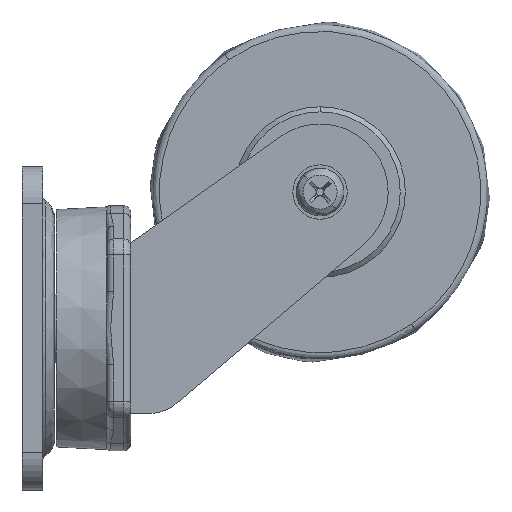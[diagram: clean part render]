
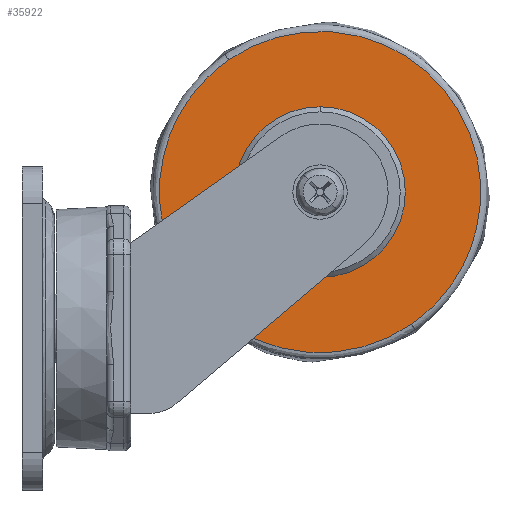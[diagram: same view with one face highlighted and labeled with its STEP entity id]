
A CAD part, left-side view. The second image highlights one B-rep face of the part: STEP entity #35922.
In plain terms, the highlighted planar face has unit normal (-1, 0, 0).
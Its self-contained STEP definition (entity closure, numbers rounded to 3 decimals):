
#1178 = CIRCLE ( 'NONE', #25655, 25.05 ) ;
#2416 = VERTEX_POINT ( 'NONE', #34981 ) ;
#2867 = EDGE_CURVE ( 'NONE', #31572, #12498, #1178, .T. ) ;
#3534 = CARTESIAN_POINT ( 'NONE',  ( -20., -55.65, 40. ) ) ;
#6559 = DIRECTION ( 'NONE',  ( -1., 0., 0. ) ) ;
#6854 = ORIENTED_EDGE ( 'NONE', *, *, #41445, .F. ) ;
#6908 = CARTESIAN_POINT ( 'NONE',  ( -20., -106.429, 132.479 ) ) ;
#7556 = ORIENTED_EDGE ( 'NONE', *, *, #41129, .F. ) ;
#9362 = DIRECTION ( 'NONE',  ( 0., 0., 1. ) ) ;
#12498 = VERTEX_POINT ( 'NONE', #32411 ) ;
#14636 = CARTESIAN_POINT ( 'NONE',  ( -20., -55.65, 14.95 ) ) ;
#16491 = DIRECTION ( 'NONE',  ( 0., 0., -1. ) ) ;
#16600 = FACE_BOUND ( 'NONE', #34526, .T. ) ;
#18168 =( BOUNDED_CURVE ( )  B_SPLINE_CURVE ( 3, ( #40989, #41524, #28788, #18507 ),
 .UNSPECIFIED., .F., .F. ) 
 B_SPLINE_CURVE_WITH_KNOTS ( ( 4, 4 ),
 ( 0., 1. ),
 .UNSPECIFIED. ) 
 CURVE ( )  GEOMETRIC_REPRESENTATION_ITEM ( )  RATIONAL_B_SPLINE_CURVE ( ( 1., 0.333, 0.333, 1. ) ) 
 REPRESENTATION_ITEM ( '' )  );
#18507 = CARTESIAN_POINT ( 'NONE',  ( -20., -28.814, 78.807 ) ) ;
#18541 = AXIS2_PLACEMENT_3D ( 'NONE', #31825, #38297, #9362 ) ;
#20077 = CARTESIAN_POINT ( 'NONE',  ( -20., -160.1, 54.864 ) ) ;
#22489 = DIRECTION ( 'NONE',  ( 0., 0., -1. ) ) ;
#24493 = CARTESIAN_POINT ( 'NONE',  ( -20., -28.814, 78.807 ) ) ;
#25655 = AXIS2_PLACEMENT_3D ( 'NONE', #29302, #6559, #16491 ) ;
#28788 = CARTESIAN_POINT ( 'NONE',  ( -20., 48.8, 25.136 ) ) ;
#29190 = FACE_OUTER_BOUND ( 'NONE', #39236, .T. ) ;
#29302 = CARTESIAN_POINT ( 'NONE',  ( -20., -55.65, 40. ) ) ;
#29543 = ORIENTED_EDGE ( 'NONE', *, *, #32332, .F. ) ;
#30805 = AXIS2_PLACEMENT_3D ( 'NONE', #3534, #35653, #22489 ) ;
#31572 = VERTEX_POINT ( 'NONE', #14636 ) ;
#31825 = CARTESIAN_POINT ( 'NONE',  ( -20., -35.046, 25.752 ) ) ;
#31957 = PLANE ( 'NONE',  #18541 ) ;
#32332 = EDGE_CURVE ( 'NONE', #12498, #31572, #39014, .T. ) ;
#32411 = CARTESIAN_POINT ( 'NONE',  ( -20., -55.65, 65.05 ) ) ;
#33004 = CARTESIAN_POINT ( 'NONE',  ( -20., -82.486, 1.193 ) ) ;
#34526 = EDGE_LOOP ( 'NONE', ( #35710, #29543 ) ) ;
#34981 = CARTESIAN_POINT ( 'NONE',  ( -20., -82.486, 1.193 ) ) ;
#35653 = DIRECTION ( 'NONE',  ( -1., 0., 0. ) ) ;
#35710 = ORIENTED_EDGE ( 'NONE', *, *, #2867, .F. ) ;
#35922 = ADVANCED_FACE ( 'NONE', ( #29190, #16600 ), #31957, .F. ) ;
#36958 =( BOUNDED_CURVE ( )  B_SPLINE_CURVE ( 3, ( #39359, #6908, #20077, #33004 ),
 .UNSPECIFIED., .F., .F. ) 
 B_SPLINE_CURVE_WITH_KNOTS ( ( 4, 4 ),
 ( 0., 1. ),
 .UNSPECIFIED. ) 
 CURVE ( )  GEOMETRIC_REPRESENTATION_ITEM ( )  RATIONAL_B_SPLINE_CURVE ( ( 1., 0.333, 0.333, 1. ) ) 
 REPRESENTATION_ITEM ( '' )  );
#38297 = DIRECTION ( 'NONE',  ( 1., 0., 0. ) ) ;
#38499 = VERTEX_POINT ( 'NONE', #24493 ) ;
#39014 = CIRCLE ( 'NONE', #30805, 25.05 ) ;
#39236 = EDGE_LOOP ( 'NONE', ( #6854, #7556 ) ) ;
#39359 = CARTESIAN_POINT ( 'NONE',  ( -20., -28.814, 78.807 ) ) ;
#40989 = CARTESIAN_POINT ( 'NONE',  ( -20., -82.486, 1.193 ) ) ;
#41129 = EDGE_CURVE ( 'NONE', #38499, #2416, #36958, .T. ) ;
#41445 = EDGE_CURVE ( 'NONE', #2416, #38499, #18168, .T. ) ;
#41524 = CARTESIAN_POINT ( 'NONE',  ( -20., -4.871, -52.479 ) ) ;
